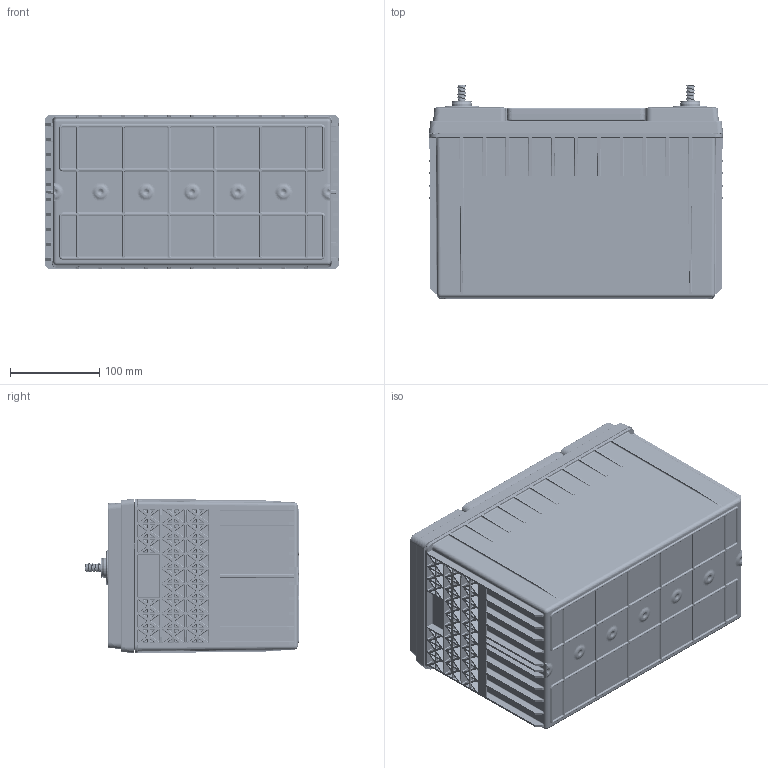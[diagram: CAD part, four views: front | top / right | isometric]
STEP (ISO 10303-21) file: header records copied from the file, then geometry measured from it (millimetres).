
FILE_DESCRIPTION (( 'STEP AP203' ), '1' );
FILE_NAME ('ODX-AGM31.STEP', '2024-02-22T22:11:50', ( '' ), ( '' ), 'SwSTEP 2.0', 'SolidWorks 2022', '' );
FILE_SCHEMA (( 'CONFIG_CONTROL_DESIGN' ));
Products named in the file (1): ODX-AGM31
Bounding box: 329.95 x 239.68 x 172.41 mm (x, y, z)
Volume: 1895551.6 mm3; surface area: 1277760.7 mm2
Topology: 15 solids, 15 shells, 11994 faces, 30076 edges, 16762 vertices
Faces by surface type: cylinder 4304, plane 3294, bspline 2870, torus 600, sphere 514, cone 412
Full cylindrical faces by diameter (mm): 7.62 x2, 7.937 x2, 8.001 x6, 12.192 x4, 15.875 x2, 19.05 x2, 22.225 x6, 22.622 x2, 22.86 x2, 23.813 x12, 26.238 x2, 30.956 x2
Entity records: 401203 total; most frequent: CARTESIAN_POINT 158160, ORIENTED_EDGE 56546, DIRECTION 45226, EDGE_CURVE 28273, VERTEX_POINT 16689, AXIS2_PLACEMENT_3D 16205, LINE 12816, VECTOR 12816
